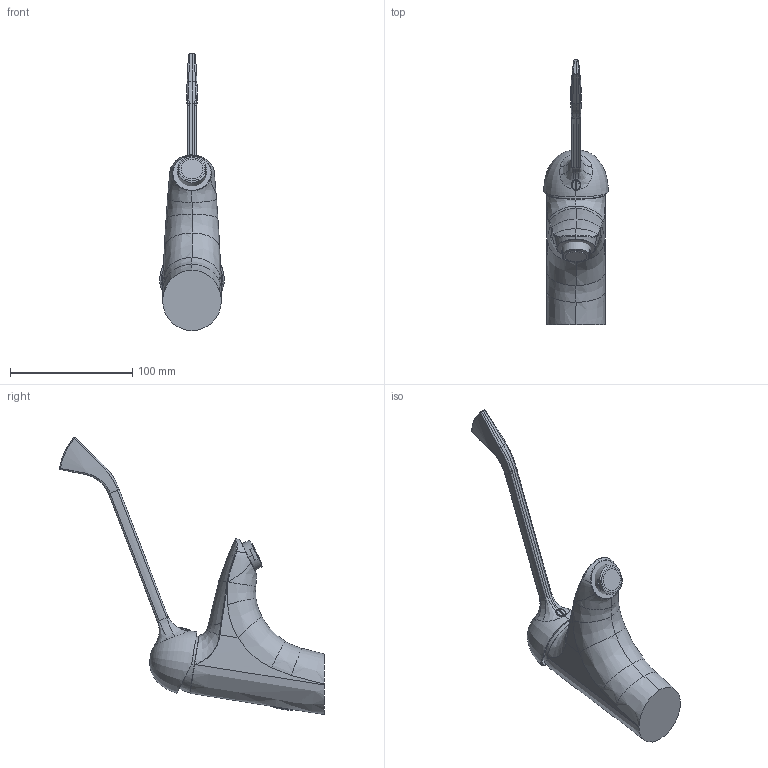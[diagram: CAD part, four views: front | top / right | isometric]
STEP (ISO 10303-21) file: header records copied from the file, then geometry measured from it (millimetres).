
FILE_DESCRIPTION((''),'2;1');
FILE_NAME('10421_SUB01_SW0001','2026-10-07T12:45:00',('simi1'),(''),'CREO PARAMETRIC BY PTC INC, 2022244','CREO PARAMETRIC BY PTC INC, 2022244','');
FILE_SCHEMA(('CONFIG_CONTROL_DESIGN'));
Length unit declared in the file: millimetre
Products named in the file (1): 10421_SUB01_SW0001
Bounding box: 53 x 217.01 x 227.21 mm (x, y, z)
Surface area: 51732.4 mm2 (no closed solid volume)
Topology: 0 solids, 11 shells, 217 faces, 551 edges, 334 vertices
Faces by surface type: bspline 143, cylinder 24, plane 23, extrusion 6, cone 6, revolution 6, sphere 6, torus 3
Entity records: 14869 total; most frequent: CARTESIAN_POINT 10866, ORIENTED_EDGE 993, EDGE_CURVE 545, DIRECTION 462, B_SPLINE_CURVE_WITH_KNOTS 351, VERTEX_POINT 334, EDGE_LOOP 217, FACE_OUTER_BOUND 217
